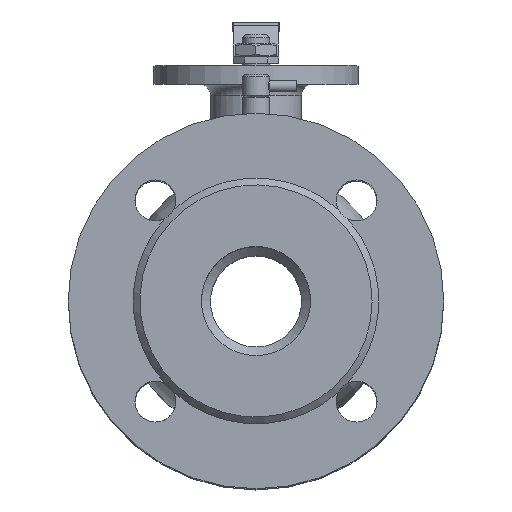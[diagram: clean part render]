
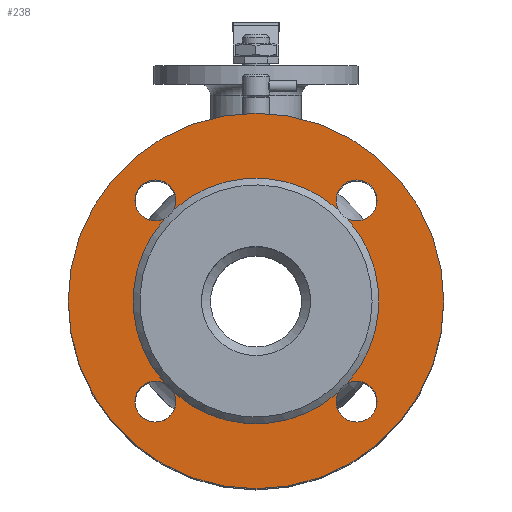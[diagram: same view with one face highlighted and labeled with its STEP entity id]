
A CAD part, top view. The second image highlights one B-rep face of the part: STEP entity #238.
In plain terms, the highlighted planar face has unit normal (0, 0, 1).
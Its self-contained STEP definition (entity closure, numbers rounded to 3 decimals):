
#238=ADVANCED_FACE('',(#2282,#2284),#2286,.F.);
#2282=FACE_BOUND('',#2283,.T.);
#2283=EDGE_LOOP('',(#28808));
#2284=FACE_BOUND('',#2285,.T.);
#2285=EDGE_LOOP('',(#28809,#28810,#28811,#28812,#28813,#28814,#28815,#28816));
#2286=PLANE('',#2287);
#2287=AXIS2_PLACEMENT_3D('',#2288,#2289,#2290);
#2288=CARTESIAN_POINT('',(0.,54.,152.));
#2289=DIRECTION('',(0.,0.,-1.));
#2290=DIRECTION('',(-1.,0.,0.));
#28808=ORIENTED_EDGE('',*,*,#33730,.T.);
#28809=ORIENTED_EDGE('',*,*,#33731,.F.);
#28810=ORIENTED_EDGE('',*,*,#33693,.F.);
#28811=ORIENTED_EDGE('',*,*,#33732,.F.);
#28812=ORIENTED_EDGE('',*,*,#33691,.F.);
#28813=ORIENTED_EDGE('',*,*,#33733,.F.);
#28814=ORIENTED_EDGE('',*,*,#33689,.F.);
#28815=ORIENTED_EDGE('',*,*,#33734,.F.);
#28816=ORIENTED_EDGE('',*,*,#33687,.F.);
#33687=EDGE_CURVE('',#35929,#35932,#35933,.T.);
#33689=EDGE_CURVE('',#35934,#35936,#35937,.T.);
#33691=EDGE_CURVE('',#35938,#35940,#35941,.T.);
#33693=EDGE_CURVE('',#35942,#35930,#35944,.T.);
#33730=EDGE_CURVE('',#36013,#36013,#36014,.T.);
#33731=EDGE_CURVE('',#35930,#35929,#36015,.T.);
#33732=EDGE_CURVE('',#35940,#35942,#36016,.T.);
#33733=EDGE_CURVE('',#35936,#35938,#36017,.T.);
#33734=EDGE_CURVE('',#35932,#35934,#36018,.T.);
#35929=VERTEX_POINT('',#52575);
#35930=VERTEX_POINT('',#52576);
#35932=VERTEX_POINT('',#52645);
#35933=CIRCLE('',#52646,54.);
#35934=VERTEX_POINT('',#52650);
#35936=VERTEX_POINT('',#52719);
#35937=CIRCLE('',#52720,54.);
#35938=VERTEX_POINT('',#52724);
#35940=VERTEX_POINT('',#52793);
#35941=CIRCLE('',#52794,54.);
#35942=VERTEX_POINT('',#52798);
#35944=CIRCLE('',#52867,54.);
#36013=VERTEX_POINT('',#53303);
#36014=CIRCLE('',#53304,82.5);
#36015=CIRCLE('',#53308,9.);
#36016=CIRCLE('',#53312,9.);
#36017=CIRCLE('',#53316,9.);
#36018=CIRCLE('',#53320,9.);
#52575=CARTESIAN_POINT('',(36.191,40.078,152.));
#52576=CARTESIAN_POINT('',(40.078,36.191,152.));
#52645=CARTESIAN_POINT('',(-36.191,40.078,152.));
#52646=AXIS2_PLACEMENT_3D('',#52647,#52648,#52649);
#52647=CARTESIAN_POINT('',(0.,0.,152.));
#52648=DIRECTION('',(0.,0.,1.));
#52649=DIRECTION('',(0.67,0.742,0.));
#52650=CARTESIAN_POINT('',(-40.078,36.191,152.));
#52719=CARTESIAN_POINT('',(-40.078,-36.191,152.));
#52720=AXIS2_PLACEMENT_3D('',#52721,#52722,#52723);
#52721=CARTESIAN_POINT('',(0.,0.,152.));
#52722=DIRECTION('',(0.,0.,1.));
#52723=DIRECTION('',(-0.742,0.67,0.));
#52724=CARTESIAN_POINT('',(-36.191,-40.078,152.));
#52793=CARTESIAN_POINT('',(36.191,-40.078,152.));
#52794=AXIS2_PLACEMENT_3D('',#52795,#52796,#52797);
#52795=CARTESIAN_POINT('',(0.,0.,152.));
#52796=DIRECTION('',(0.,0.,1.));
#52797=DIRECTION('',(-0.67,-0.742,0.));
#52798=CARTESIAN_POINT('',(40.078,-36.191,152.));
#52867=AXIS2_PLACEMENT_3D('',#52868,#52869,#52870);
#52868=CARTESIAN_POINT('',(0.,0.,152.));
#52869=DIRECTION('',(0.,0.,1.));
#52870=DIRECTION('',(0.742,-0.67,0.));
#53303=CARTESIAN_POINT('',(82.5,0.,152.));
#53304=AXIS2_PLACEMENT_3D('',#53305,#53306,#53307);
#53305=CARTESIAN_POINT('',(0.,0.,152.));
#53306=DIRECTION('',(0.,0.,1.));
#53307=DIRECTION('',(1.,0.,0.));
#53308=AXIS2_PLACEMENT_3D('',#53309,#53310,#53311);
#53309=CARTESIAN_POINT('',(44.194,44.194,152.));
#53310=DIRECTION('',(0.,0.,1.));
#53311=DIRECTION('',(-0.457,-0.889,0.));
#53312=AXIS2_PLACEMENT_3D('',#53313,#53314,#53315);
#53313=CARTESIAN_POINT('',(44.194,-44.194,152.));
#53314=DIRECTION('',(0.,0.,1.));
#53315=DIRECTION('',(-0.889,0.457,0.));
#53316=AXIS2_PLACEMENT_3D('',#53317,#53318,#53319);
#53317=CARTESIAN_POINT('',(-44.194,-44.194,152.));
#53318=DIRECTION('',(0.,0.,1.));
#53319=DIRECTION('',(0.457,0.889,0.));
#53320=AXIS2_PLACEMENT_3D('',#53321,#53322,#53323);
#53321=CARTESIAN_POINT('',(-44.194,44.194,152.));
#53322=DIRECTION('',(0.,0.,1.));
#53323=DIRECTION('',(0.889,-0.457,0.));
